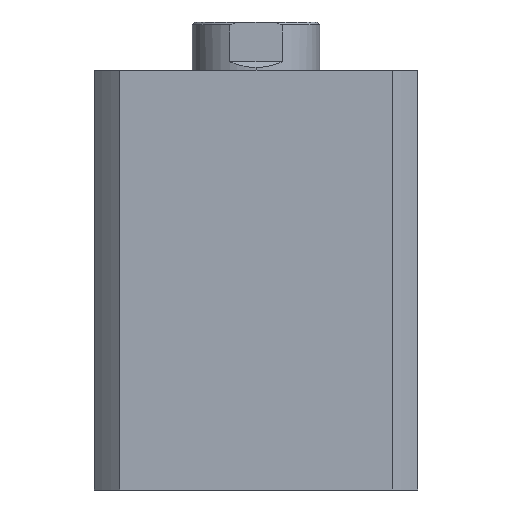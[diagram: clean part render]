
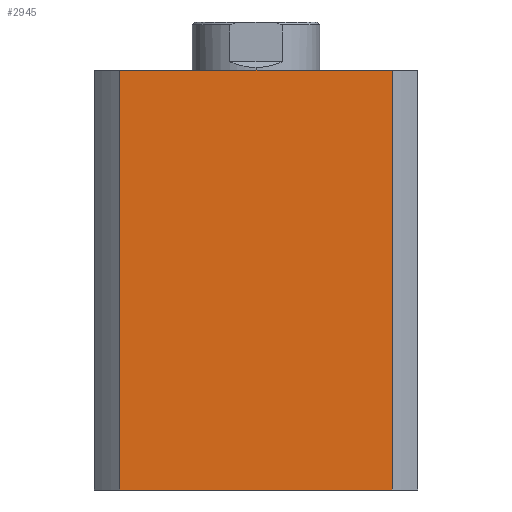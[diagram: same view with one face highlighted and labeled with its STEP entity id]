
A CAD part, left-side view. The second image highlights one B-rep face of the part: STEP entity #2945.
In plain terms, the highlighted planar face has unit normal (-1, 0, 0).
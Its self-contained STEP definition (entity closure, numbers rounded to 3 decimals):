
#83 = DIRECTION ( 'NONE',  ( 0., 0., -1. ) ) ;
#86 = DIRECTION ( 'NONE',  ( 1., 0., 0. ) ) ;
#93 = PLANE ( 'NONE',  #1211 ) ;
#97 = CARTESIAN_POINT ( 'NONE',  ( -57., 0., 148. ) ) ;
#401 = ORIENTED_EDGE ( 'NONE', *, *, #2220, .T. ) ;
#402 = ORIENTED_EDGE ( 'NONE', *, *, #2203, .F. ) ;
#403 = ORIENTED_EDGE ( 'NONE', *, *, #2260, .F. ) ;
#404 = ORIENTED_EDGE ( 'NONE', *, *, #1952, .T. ) ;
#1211 = AXIS2_PLACEMENT_3D ( 'NONE', #97, #86, #83 ) ;
#1360 = LINE ( 'NONE', #4270, #1362 ) ;
#1362 = VECTOR ( 'NONE', #4257, 1000. ) ;
#1752 = DIRECTION ( 'NONE',  ( 0., 0., -1. ) ) ;
#1753 = CARTESIAN_POINT ( 'NONE',  ( -57., 47.971, 148. ) ) ;
#1814 = DIRECTION ( 'NONE',  ( 0., -1., 0. ) ) ;
#1815 = CARTESIAN_POINT ( 'NONE',  ( -57., 0., 148. ) ) ;
#1952 = EDGE_CURVE ( 'NONE', #3223, #3184, #4377, .T. ) ;
#2203 = EDGE_CURVE ( 'NONE', #3164, #4865, #4535, .T. ) ;
#2220 = EDGE_CURVE ( 'NONE', #3164, #3223, #4560, .T. ) ;
#2260 = EDGE_CURVE ( 'NONE', #4865, #3184, #1360, .T. ) ;
#2506 = DIRECTION ( 'NONE',  ( 0., -1., 0. ) ) ;
#2513 = CARTESIAN_POINT ( 'NONE',  ( -57., 0., 0. ) ) ;
#2945 = ADVANCED_FACE ( 'NONE', ( #2965 ), #93, .F. ) ;
#2965 = FACE_OUTER_BOUND ( 'NONE', #4849, .T. ) ;
#3164 = VERTEX_POINT ( 'NONE', #5058 ) ;
#3184 = VERTEX_POINT ( 'NONE', #5038 ) ;
#3223 = VERTEX_POINT ( 'NONE', #4999 ) ;
#4257 = DIRECTION ( 'NONE',  ( 0., 0., -1. ) ) ;
#4270 = CARTESIAN_POINT ( 'NONE',  ( -57., -47.971, 148. ) ) ;
#4377 = LINE ( 'NONE', #2513, #4382 ) ;
#4382 = VECTOR ( 'NONE', #2506, 1000. ) ;
#4535 = LINE ( 'NONE', #1815, #4538 ) ;
#4538 = VECTOR ( 'NONE', #1814, 1000. ) ;
#4560 = LINE ( 'NONE', #1753, #4562 ) ;
#4562 = VECTOR ( 'NONE', #1752, 1000. ) ;
#4849 = EDGE_LOOP ( 'NONE', ( #404, #403, #402, #401 ) ) ;
#4865 = VERTEX_POINT ( 'NONE', #4894 ) ;
#4894 = CARTESIAN_POINT ( 'NONE',  ( -57., -47.971, 148. ) ) ;
#4999 = CARTESIAN_POINT ( 'NONE',  ( -57., 47.971, 0. ) ) ;
#5038 = CARTESIAN_POINT ( 'NONE',  ( -57., -47.971, 0. ) ) ;
#5058 = CARTESIAN_POINT ( 'NONE',  ( -57., 47.971, 148. ) ) ;
